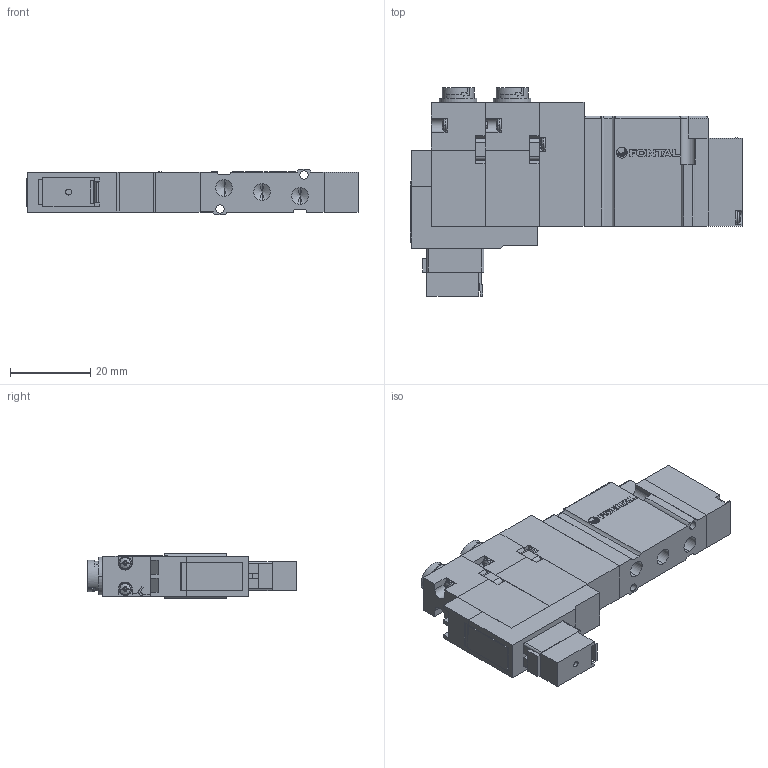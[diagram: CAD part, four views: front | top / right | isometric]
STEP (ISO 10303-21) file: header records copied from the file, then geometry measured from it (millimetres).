
FILE_DESCRIPTION (( 'STEP AP203' ), '1' );
FILE_NAME ('A05FD25#-#Q-#-E.STEP', '2016-02-15T06:10:10', ( 'Sam Lin' ), ( '' ), 'SwSTEP 2.0', 'SolidWorks 2013', '' );
FILE_SCHEMA (( 'CONFIG_CONTROL_DESIGN' ));
Length unit declared in the file: metre
Products named in the file (14): DC24-A05F-2; ISO 7045 - M1.6 x 10; DC24-A05F-3; mark-ADEX-A05RS; DC24-A05F-4; A05FS25-2; A05FS25-5; A05RS25-3; A05FD25#-#Q-#-E; A05RS25-4; A05RS25-5; A05RS25-6; DC24-A05F-1; A05RS25-1
Assembly tree (26 placements, depth 2):
  A05FD25#-#Q-#-E
    A05RS25-1
    ISO 7045 - M1.6 x 10  x8
    mark-ADEX-A05RS
    A05FS25-2
    A05RS25-3  x2
    A05RS25-4  x2
    A05RS25-5  x2
    A05RS25-6  x4
    DC24-A05F-1
    DC24-A05F-2
    DC24-A05F-3
    DC24-A05F-4
    A05FS25-5
Bounding box: 83 x 52.1 x 11.4 mm (x, y, z)
Volume: 24351.7 mm3; surface area: 15524.2 mm2
Topology: 34 solids, 34 shells, 900 faces, 2296 edges, 1456 vertices
Faces by surface type: plane 574, cylinder 174, cone 86, bspline 66
Entity records: 16616 total; most frequent: CARTESIAN_POINT 3304, ORIENTED_EDGE 2394, DIRECTION 2333, EDGE_CURVE 1197, VECTOR 877, LINE 877, VERTEX_POINT 783, AXIS2_PLACEMENT_3D 728
